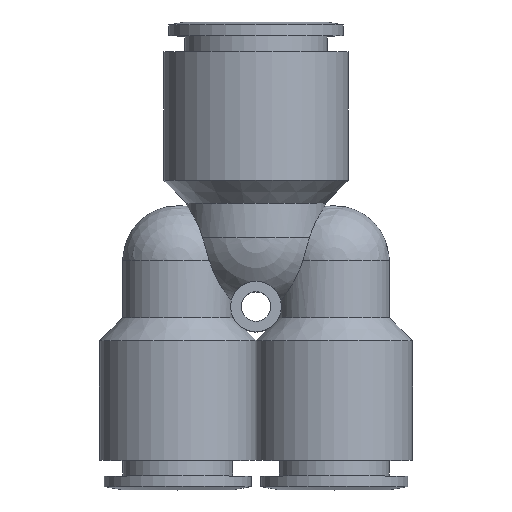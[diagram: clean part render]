
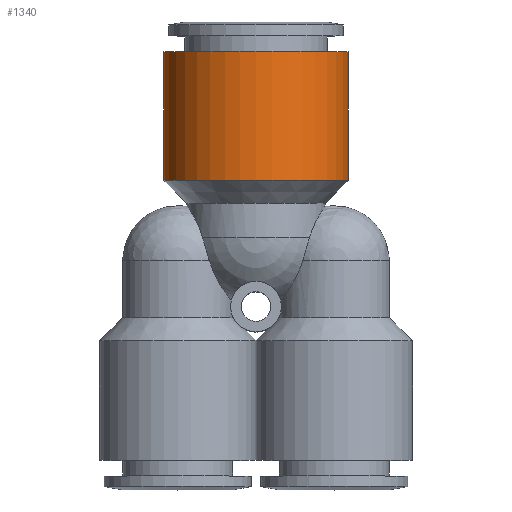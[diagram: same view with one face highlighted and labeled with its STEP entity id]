
A CAD part, top view. The second image highlights one B-rep face of the part: STEP entity #1340.
In plain terms, the highlighted cylindrical face has radius 10 mm (diameter 20 mm), a full revolution.
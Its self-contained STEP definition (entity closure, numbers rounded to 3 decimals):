
#1306=CARTESIAN_POINT('',(-10.0,13.7,0.0));
#1307=VERTEX_POINT('',#1306);
#1308=CARTESIAN_POINT('',(0.0,13.7,0.0));
#1309=DIRECTION('',(0.0,1.0,0.0));
#1310=DIRECTION('',(-1.0,0.0,0.0));
#1311=AXIS2_PLACEMENT_3D('',#1308,#1309,#1310);
#1312=CIRCLE('',#1311,10.0);
#1313=EDGE_CURVE('',#1307,#1307,#1312,.T.);
#1321=CARTESIAN_POINT('',(0.0,20.7,0.0));
#1322=DIRECTION('',(0.0,1.0,0.0));
#1323=DIRECTION('',(-1.0,0.0,0.0));
#1324=AXIS2_PLACEMENT_3D('',#1321,#1322,#1323);
#1325=CYLINDRICAL_SURFACE('',#1324,10.);
#1326=CARTESIAN_POINT('',(-10.,27.7,0.0));
#1327=VERTEX_POINT('',#1326);
#1328=CARTESIAN_POINT('',(0.0,27.7,0.0));
#1329=DIRECTION('',(0.0,1.0,0.0));
#1330=DIRECTION('',(-1.0,0.0,0.0));
#1331=AXIS2_PLACEMENT_3D('',#1328,#1329,#1330);
#1332=CIRCLE('',#1331,10.);
#1333=EDGE_CURVE('',#1327,#1327,#1332,.T.);
#1334=ORIENTED_EDGE('',*,*,#1333,.F.);
#1335=EDGE_LOOP('',(#1334));
#1336=FACE_OUTER_BOUND('',#1335,.T.);
#1337=ORIENTED_EDGE('',*,*,#1313,.T.);
#1338=EDGE_LOOP('',(#1337));
#1339=FACE_BOUND('',#1338,.T.);
#1340=ADVANCED_FACE('',(#1336,#1339),#1325,.T.);
